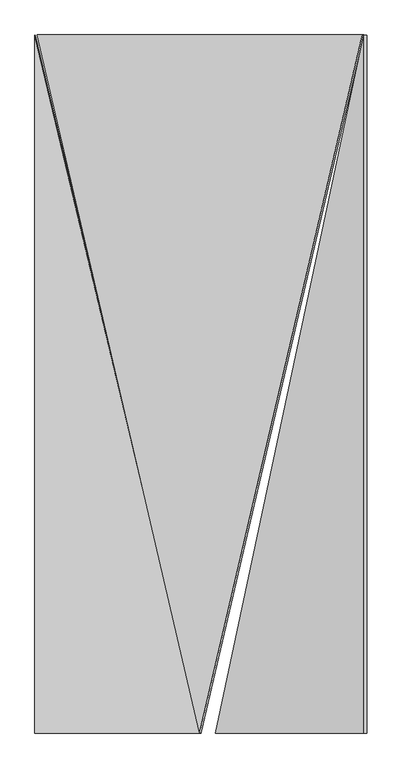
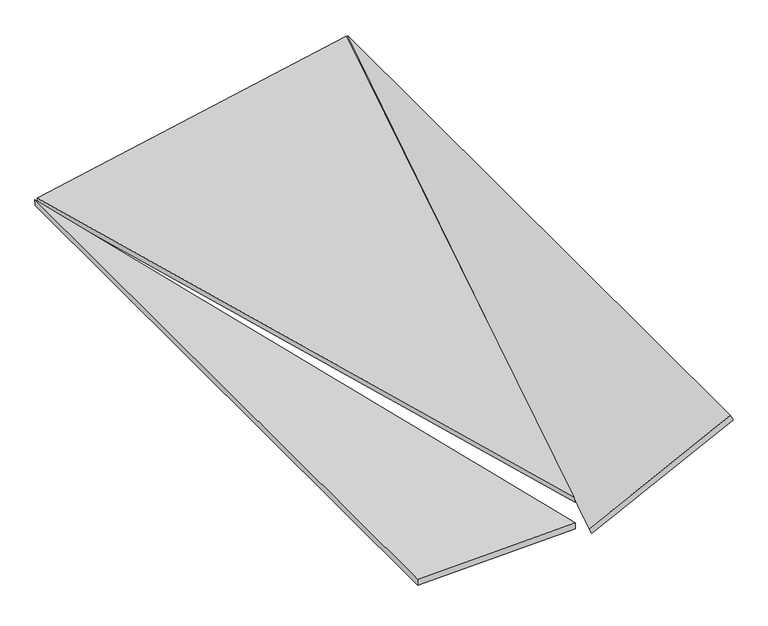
"""IFC4 building model written with IfcOpenShell, lengths in millimetres: proxy geometry, panel sufitowy 6 : panel sufitowy 6."""

import ifcopenshell
import ifcopenshell.guid

model = None  # the IFC model being written
_history = None  # IfcOwnerHistory: only IFC2X3 demands one
_inside = {}  # id of a spatial element -> (the spatial element, [elements in it])
_under = {}  # id of a project, library or spatial element -> (it, [spatial elements below it])
_declared = {}  # id of a project -> (the project, [libraries it declares])
_typed = {}  # id of a type object -> (the type object, [elements of that type])
_made_of = {}  # id of a material, layer set ... -> (it, [elements and type objects made of it])


def new_model(schema):
    """Start an empty IFC model of exactly this schema.

    Asked for "IFC4X3", IfcOpenShell would pick the latest addendum, in which some entities
    have other attributes; the version numbers below select the first issue.
    IFC2X3 requires an IfcOwnerHistory on every rooted entity: one is made here for all.
    """
    global model, _history
    if schema == "IFC4X3":
        model = ifcopenshell.file(schema_version=(4, 3, 0, 0))
    else:
        model = ifcopenshell.file(schema=schema)
    _inside.clear()
    _under.clear()
    _declared.clear()
    _typed.clear()
    _made_of.clear()
    _history = None
    if model.schema == "IFC2X3":
        org = make("IfcOrganization", Name="unknown")
        user = make(
            "IfcPersonAndOrganization",
            ThePerson=make("IfcPerson", FamilyName="unknown"),
            TheOrganization=org,
        )
        app = make(
            "IfcApplication",
            ApplicationDeveloper=org,
            Version="unknown",
            ApplicationFullName="unknown",
            ApplicationIdentifier="unknown",
        )
        _history = make(
            "IfcOwnerHistory",
            OwningUser=user,
            OwningApplication=app,
            ChangeAction="ADDED",
            CreationDate=0,
        )
    return model


def make(cls, **values):
    """One entity of the class cls with the attributes given. An attribute that is None is left unset."""
    return model.create_entity(
        cls, **{name: value for name, value in values.items() if value is not None}
    )


def rooted(cls, **values):
    """An entity with a GlobalId (a new one), such as an element, a storey or a relation."""
    return make(cls, GlobalId=ifcopenshell.guid.new(), OwnerHistory=_history, **values)


def si_unit(unit_type, name, prefix=None):
    """IfcSIUnit, for example si_unit("LENGTHUNIT", "METRE", prefix="MILLI")."""
    return make("IfcSIUnit", UnitType=unit_type, Prefix=prefix, Name=name)


def assignment(units):
    """IfcUnitAssignment: the units of a project."""
    return None if units is None else make("IfcUnitAssignment", Units=units)


def point(xyz):
    """IfcCartesianPoint."""
    return None if xyz is None else make("IfcCartesianPoint", Coordinates=xyz)


def direction(xyz):
    """IfcDirection."""
    return None if xyz is None else make("IfcDirection", DirectionRatios=xyz)


def frame(location, z_axis=None, x_axis=None):
    """IfcAxis2Placement3D, a coordinate frame: its origin and axes. An axis left out is left unset."""
    return make(
        "IfcAxis2Placement3D",
        Location=point(location),
        Axis=direction(z_axis),
        RefDirection=direction(x_axis),
    )


def origin():
    """The frame at (0, 0, 0) with its axes left unset."""
    return frame((0.0, 0.0, 0.0))


def place(relative_to, where):
    """IfcLocalPlacement: puts the frame where relative to a parent placement (None: the world)."""
    return make(
        "IfcLocalPlacement", PlacementRelTo=relative_to, RelativePlacement=where
    )


def context(
    kind, dimensions, precision=None, world=None, true_north=None, identifier=None
):
    """IfcGeometricRepresentationContext, for example the 3D "Model" context."""
    return make(
        "IfcGeometricRepresentationContext",
        ContextIdentifier=identifier,
        ContextType=kind,
        CoordinateSpaceDimension=dimensions,
        Precision=precision,
        WorldCoordinateSystem=world,
        TrueNorth=true_north,
    )


def project(units=None, contexts=None):
    """IfcProject with its units and contexts."""
    return rooted(
        "IfcProject",
        Name="project",
        RepresentationContexts=contexts,
        UnitsInContext=assignment(units),
    )


def spatial(cls, under=None, at=None, **own):
    """A site, building, storey or space (cls), placed at a placement, below another one or the project."""
    s = rooted(cls, ObjectPlacement=at, **own)
    if under is not None:
        _under.setdefault(under.id(), (under, []))[1].append(s)
    return s


def polyline(points):
    """IfcPolyline through the points."""
    return make("IfcPolyline", Points=[point(p) for p in points])


def outline(outer, holes=None, kind="AREA"):
    """IfcArbitraryClosedProfileDef: a profile drawn as a closed curve; with holes, ...WithVoids."""
    if holes is None:
        return make("IfcArbitraryClosedProfileDef", ProfileType=kind, OuterCurve=outer)
    return make(
        "IfcArbitraryProfileDefWithVoids",
        ProfileType=kind,
        OuterCurve=outer,
        InnerCurves=holes,
    )


def extrude(swept, where, along, depth):
    """IfcExtrudedAreaSolid: the profile swept, set in the frame where, extruded along a direction by depth."""
    return make(
        "IfcExtrudedAreaSolid",
        SweptArea=swept,
        Position=where,
        ExtrudedDirection=direction(along),
        Depth=depth,
    )


def shape(context_of_items, identifier, shape_type, items):
    """IfcShapeRepresentation: the items that make up one representation, for example the "Body"."""
    return make(
        "IfcShapeRepresentation",
        ContextOfItems=context_of_items,
        RepresentationIdentifier=identifier,
        RepresentationType=shape_type,
        Items=items,
    )


def source(mapping_origin, context_of_items, identifier, shape_type, items):
    """IfcRepresentationMap: a shape defined once, which mapped items show again and again."""
    return make(
        "IfcRepresentationMap",
        MappingOrigin=mapping_origin,
        MappedRepresentation=shape(context_of_items, identifier, shape_type, items),
    )


def transform(
    local_origin,
    x_axis=None,
    y_axis=None,
    z_axis=None,
    scale=None,
    scale2=None,
    scale3=None,
    uniform=True,
):
    """IfcCartesianTransformationOperator3D, or its non-uniform kind. x_axis, y_axis, z_axis: its Axis1, 2, 3."""
    if uniform:
        return make(
            "IfcCartesianTransformationOperator3D",
            Axis1=direction(x_axis),
            Axis2=direction(y_axis),
            LocalOrigin=point(local_origin),
            Scale=scale,
            Axis3=direction(z_axis),
        )
    return make(
        "IfcCartesianTransformationOperator3DnonUniform",
        Axis1=direction(x_axis),
        Axis2=direction(y_axis),
        LocalOrigin=point(local_origin),
        Scale=scale,
        Axis3=direction(z_axis),
        Scale2=scale2,
        Scale3=scale3,
    )


def mapped(mapping_source, mapping_target):
    """IfcMappedItem: shows the shape of a source again, moved by a transform."""
    return make(
        "IfcMappedItem", MappingSource=mapping_source, MappingTarget=mapping_target
    )


def made_of(thing, what):
    """Note that an element or type object is made of a material, layer set ...; save() writes the relation."""
    if what is not None:
        _made_of.setdefault(what.id(), (what, []))[1].append(thing)
    return thing


def element(
    cls,
    number,
    at=None,
    inside=None,
    cuts=None,
    type_object=None,
    material=None,
    context=None,
    identifier="Body",
    shape_type=None,
    held_by="IfcProductDefinitionShape",
    body=None,
    shapes=None,
    **own,
):
    """One element of the class cls, such as IfcWall. Its Tag is "e" and its number.

    at: its placement. inside: the storey or other place that contains it. cuts: it is an
    opening in that element (IfcRelVoidsElement). A single representation is given by context,
    identifier, shape_type and body (its items); several are given by shapes. held_by: the class
    of the entity that holds the representations. save() writes the other relations.
    """
    e = rooted(cls, Tag="e%d" % number, ObjectPlacement=at, **own)
    if body is not None:
        shapes = [shape(context, identifier, shape_type, body)]
    if shapes is not None:
        e.Representation = make(held_by, Representations=shapes)
    if inside is not None:
        _inside.setdefault(inside.id(), (inside, []))[1].append(e)
    if cuts is not None:
        rooted(
            "IfcRelVoidsElement", RelatingBuildingElement=cuts, RelatedOpeningElement=e
        )
    if type_object is not None:
        _typed.setdefault(type_object.id(), (type_object, []))[1].append(e)
    return made_of(e, material)


def aggregate(whole, parts):
    """IfcRelAggregates: a whole, such as a stair, and the parts it consists of."""
    return rooted("IfcRelAggregates", RelatingObject=whole, RelatedObjects=parts)


def save(model, path):
    """Write the relations noted so far, then the file.

    IfcRelAggregates (storeys below a building ...), IfcRelContainedInSpatialStructure (elements
    in a storey), IfcRelDefinesByType, IfcRelAssociatesMaterial and IfcRelDeclares: one each for
    every whole, place, type object, material and project.
    """
    for whole, parts in _under.values():
        aggregate(whole, parts)
    for where, things in _inside.values():
        rooted(
            "IfcRelContainedInSpatialStructure",
            RelatedElements=things,
            RelatingStructure=where,
        )
    for kind, things in _typed.values():
        rooted("IfcRelDefinesByType", RelatedObjects=things, RelatingType=kind)
    for what, things in _made_of.values():
        rooted("IfcRelAssociatesMaterial", RelatedObjects=things, RelatingMaterial=what)
    for by, libraries in _declared.values():
        rooted("IfcRelDeclares", RelatingContext=by, RelatedDefinitions=libraries)
    model.write(path)


def generic_models_532f8a5e(model_context):
    return source(origin(), model_context, "Body", "SweptSolid", [
        extrude(outline(polyline([(-900.9098917, 0.0), (1235.4098448, 0.0), (1006.190989, -962.7191945), (-900.9098917, 0.0)])), frame((544.5239341, -1457.4151922, 1295.037712), z_axis=(-0.19936793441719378, 0.0, 0.9799247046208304), x_axis=(-0.22697067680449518, 0.9728062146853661, -0.04617770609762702)), (0.0, 0.0, 1.0), 20.0),
        extrude(outline(polyline([(-127.5, 0.0), (-622.5, 0.0), (-127.5, 2079.0), (-127.5, 0.0)])), frame((1357.6962411, -2335.0, 1494.154961), z_axis=(-0.44619781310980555, 0.0, 0.8949343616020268), x_axis=(0.8949343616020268, 0.0, 0.44619781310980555)), (0.0, 0.0, 1.0), 20.0),
        extrude(outline(polyline([(-127.5000001, 0.0), (-127.5000001, -2079.0), (-622.5, 0.0), (-127.5000001, 0.0)])), frame((126.4118494, -2335.0, 1232.5655652), z_axis=(-0.026176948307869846, 0.0, 0.9996573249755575), x_axis=(-0.9996573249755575, 0.0, -0.026176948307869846)), (0.0, 0.0, 1.0), 20.0),
    ])


if __name__ == "__main__":
    model = new_model("IFC4")
    model_context = context("Model", 3, world=origin())
    ifc_project = project(units=[si_unit("LENGTHUNIT", "METRE", prefix="MILLI")], contexts=[model_context])
    site = spatial("IfcSite", under=ifc_project)
    building = spatial("IfcBuilding", under=site)
    placement = place(None, origin())
    generic_models_shape = generic_models_532f8a5e(model_context)
    element("IfcBuildingElementProxy", 1, Name="panel sufitowy 6 : panel sufitowy 6", ObjectType="panel sufitowy 6 : panel sufitowy 6", at=placement, inside=building, context=model_context, shape_type="MappedRepresentation", body=[
        mapped(generic_models_shape, transform((0.0, 0.0, 0.0), x_axis=(1.0, 0.0, 0.0), y_axis=(0.0, 1.0, 0.0), z_axis=(0.0, 0.0, 1.0))),
    ])
    save(model, "model.ifc")
